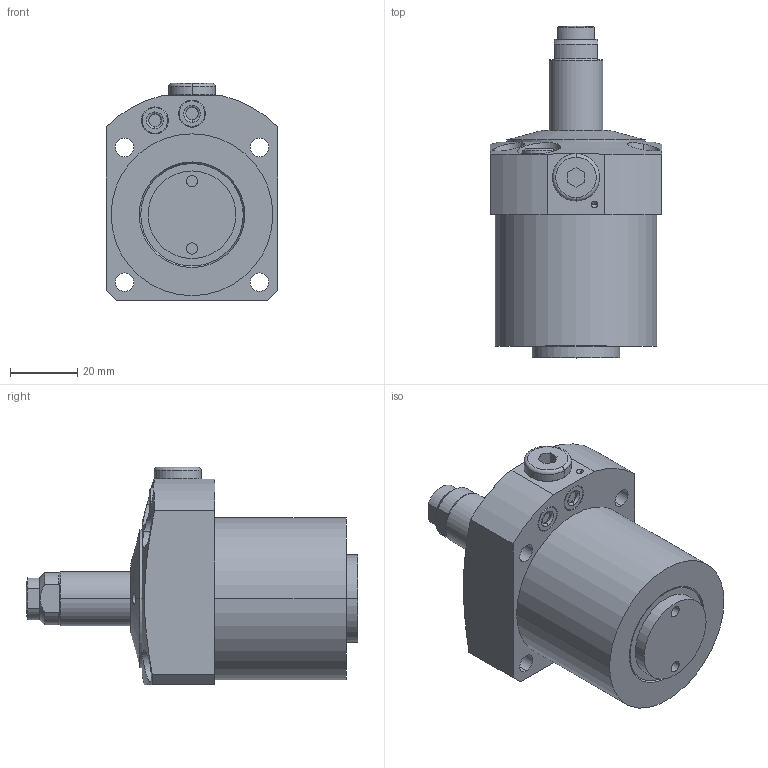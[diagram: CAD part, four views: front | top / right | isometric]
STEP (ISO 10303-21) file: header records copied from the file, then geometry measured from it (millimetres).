
FILE_DESCRIPTION(/* description */ (''),/* implementation_level */ '2;1');
FILE_NAME(/* name */ 'KFSS48-Q.stp',/* time_stamp */ '2023-01-10T13:20:58+08:00',/* author */ (''),/* organization */ (''),/* preprocessor_version */ 'ST-DEVELOPER v16.7',/* originating_system */ 'SIEMENS PLM Software NX 12.0',/* authorisation */ '');
FILE_SCHEMA (('AP203_CONFIGURATION_CONTROLLED_3D_DESIGN_OF_MECHANICAL_PARTS_AND_ASSEMBLIES_MIM_LF { 1 0 10303 403 2 1 2}'));
Length unit declared in the file: millimetre
Products named in the file (8): KFSS48-Q-5; KFSS48-Q-7; KFSS48-Q-1; KFSS48-Q-6; KFSS48-Q-3; KFSS48-Q-2; KFSS48-Q-4; LC0482-C-EQ_step
Assembly tree (8 placements, depth 2):
  LC0482-C-EQ_step
    KFSS48-Q-4
    KFSS48-Q-2
    KFSS48-Q-3
    KFSS48-Q-6  x2
    KFSS48-Q-1
    KFSS48-Q-7
    KFSS48-Q-5
Bounding box: 51 x 98.5 x 64.5 mm (x, y, z)
Volume: 134862.5 mm3; surface area: 24544 mm2
Topology: 8 solids, 8 shells, 218 faces, 475 edges, 294 vertices
Faces by surface type: cylinder 85, plane 65, cone 38, torus 28, sphere 2
Entity records: 6806 total; most frequent: CARTESIAN_POINT 1199, DIRECTION 1072, ORIENTED_EDGE 890, AXIS2_PLACEMENT_3D 447, EDGE_CURVE 445, VERTEX_POINT 280, EDGE_LOOP 245, CIRCLE 232
